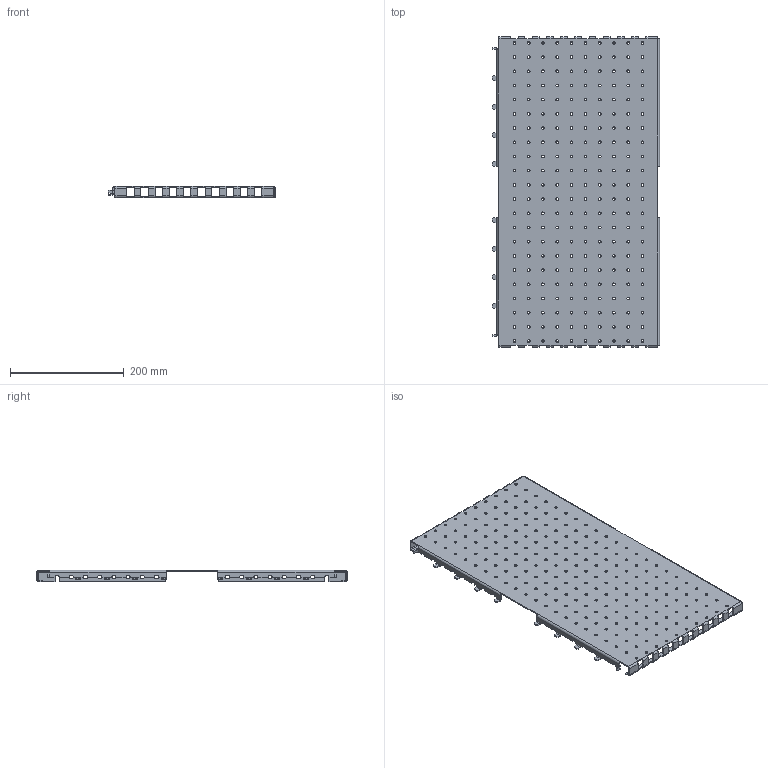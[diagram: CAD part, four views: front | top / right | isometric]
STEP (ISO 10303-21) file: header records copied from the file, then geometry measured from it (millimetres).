
FILE_DESCRIPTION(('STEP AP203'), '1');
FILE_NAME('Îãðàæäåíèå ñáîðíîé øèíû áîêîâîå ìîíòàæíîå 550õ400 ìì OptiBox M 419304 ÊÝÀÇ', '', ('UNSPECIFIED'), ('UNSPECIFIED'), 'C3D Converter', 'C3D Toolkit', '');
FILE_SCHEMA(('CONFIG_CONTROL_DESIGN'));
Length unit declared in the file: millimetre
Bounding box: 294.3 x 547 x 20 mm (x, y, z)
Volume: 342568.5 mm3; surface area: 356612.3 mm2
Topology: 1 solids, 1 shells, 658 faces, 1804 edges, 1108 vertices
Faces by surface type: cylinder 370, plane 288
Full cylindrical faces by diameter (mm): 4.6 x220, 7.3 x14
Entity records: 20662 total; most frequent: DIRECTION 3628, CARTESIAN_POINT 3337, ORIENTED_EDGE 3140, EDGE_CURVE 1570, AXIS2_PLACEMENT_3D 1399, EDGE_LOOP 1360, VERTEX_POINT 1108, FACE_BOUND 892
